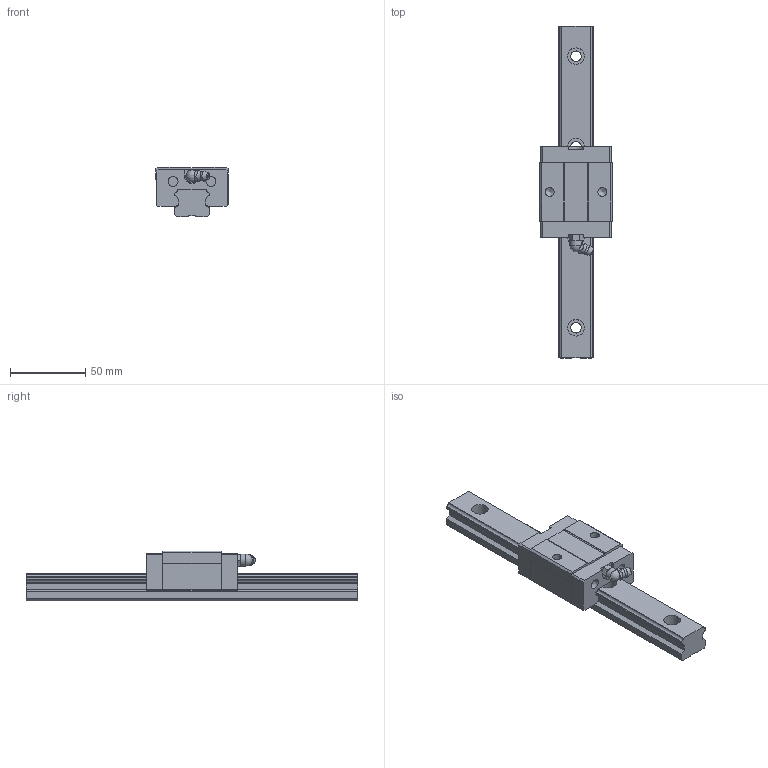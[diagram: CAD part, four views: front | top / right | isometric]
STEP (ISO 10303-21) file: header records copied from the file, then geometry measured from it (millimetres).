
FILE_DESCRIPTION(/* description */ (''),/* implementation_level */ '2;1');
FILE_NAME(/* name */ 'MSB25TS',/* time_stamp */ '2004-05-24T09:52:29+08:00',/* author */ (''),/* organization */ (''),/* preprocessor_version */ 'ST-DEVELOPER v8',/* originating_system */ '',/* authorisation */ '');
FILE_SCHEMA (('CONFIG_CONTROL_DESIGN'));
Length unit declared in the file: millimetre
Products named in the file (1): zirc812C001d
Bounding box: 48 x 220 x 33 mm (x, y, z)
Volume: 132855.9 mm3; surface area: 35365.4 mm2
Topology: 3 solids, 3 shells, 165 faces, 447 edges, 294 vertices
Faces by surface type: plane 123, cylinder 29, torus 7, cone 3, sphere 2, bspline 1
Full cylindrical faces by diameter (mm): 6 x2, 6.5 x6, 7 x4, 8 x1, 11 x4
Entity records: 5153 total; most frequent: CARTESIAN_POINT 994, DIRECTION 828, ORIENTED_EDGE 826, EDGE_CURVE 413, LINE 292, VECTOR 292, VERTEX_POINT 286, AXIS2_PLACEMENT_3D 268
